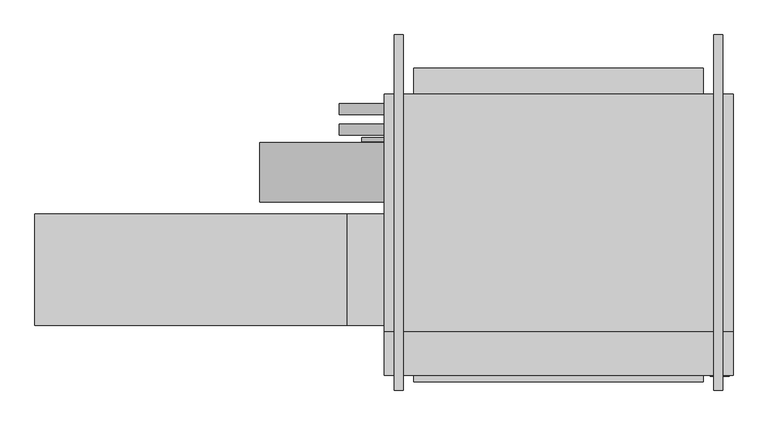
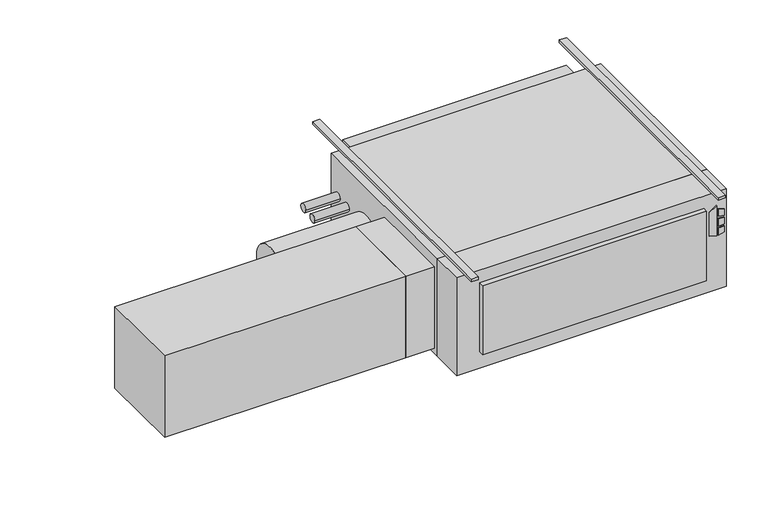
"""IFC4 building model written with IfcOpenShell, lengths in millimetres: proxy geometry."""

from ifc_helpers import new_model, si_unit, point, frame, frame_2d, origin, origin_with_axes, place, context, project, spatial, polyline, circle_curve, trimmed, segment, composite_curve, outline, extrude, source, transform, mapped, element, save


def mechanical_equipment_04a0eb57(model_context):
    return source(origin(), model_context, "Body", "SweptSolid", [
        extrude(outline(polyline([(-193.2519297, 671.5868862), (-203.2, 703.7602728), (-61.0290756, 703.7602728), (-84.0510817, 671.5868862), (-193.2519297, 671.5868862)])), frame((0.0, -797.052, 0.0), z_axis=(0.0, 1.0, 0.0), x_axis=(0.0, 0.0, 1.0)), (0.0, 0.0, 1.0), 3.175),
        extrude(outline(polyline([(-114.2526443, 710.5186058), (-117.4550368, 736.6), (-88.2261958, 736.6), (-80.1617807, 710.5186058), (-114.2526443, 710.5186058)])), frame((0.0, -797.052, 0.0), z_axis=(0.0, 1.0, 0.0), x_axis=(0.0, 0.0, 1.0)), (0.0, 0.0, 1.0), 3.175),
        extrude(outline(polyline([(-166.1161712, 736.6), (-169.7816721, 710.5186058), (-203.2, 710.5186058), (-194.5657628, 736.6), (-166.1161712, 736.6)])), frame((0.0, -797.052, 0.0), z_axis=(0.0, 1.0, 0.0), x_axis=(0.0, 0.0, 1.0)), (0.0, 0.0, 1.0), 3.175),
        extrude(outline(polyline([(-126.8010097, 736.6), (-124.5191834, 710.5186058), (-160.4567319, 710.5186058), (-157.7154669, 736.6), (-126.8010097, 736.6)])), frame((0.0, -797.052, 0.0), z_axis=(0.0, 1.0, 0.0), x_axis=(0.0, 0.0, 1.0)), (0.0, 0.0, 1.0), 3.175),
        extrude(outline(polyline([(749.3, -793.877), (-444.5, -793.877), (-444.5, -644.525), (749.3, -644.525), (749.3, -793.877)])), frame((0.0, 0.0, -457.2), z_axis=(0.0, 0.0, 1.0), x_axis=(1.0, 0.0, 0.0)), (0.0, 0.0, 1.0), 457.2),
        extrude(outline(polyline([(647.7, -816.229), (-342.9, -816.229), (-342.9, -793.877), (647.7, -793.877), (647.7, -816.229)])), frame((0.0, 0.0, -381.0), z_axis=(0.0, 0.0, 1.0), x_axis=(1.0, 0.0, 0.0)), (0.0, 0.0, 1.0), 323.85),
        extrude(outline(polyline([(-1638.3, -622.3), (-1638.3, -241.3), (-571.5, -241.3), (-571.5, -622.3), (-1638.3, -622.3)])), frame((0.0, 0.0, -431.8), z_axis=(0.0, 0.0, 1.0), x_axis=(1.0, 0.0, 0.0)), (0.0, 0.0, 1.0), 381.0),
        extrude(outline(polyline([(-444.5, -241.3), (-444.5, -622.3), (-571.5, -622.3), (-571.5, -241.3), (-444.5, -241.3)])), frame((0.0, 0.0, -431.8), z_axis=(0.0, 0.0, 1.0), x_axis=(1.0, 0.0, 0.0)), (0.0, 0.0, 1.0), 381.0),
        extrude(outline(composite_curve([segment(trimmed(circle_curve(frame_2d((-98.4896516, -228.6360165)), 101.6), [point((-200.0896516, -228.6360165))], [point((3.1103484, -228.6360165))], False, "CARTESIAN"), True, "CONTINUOUS"), segment(trimmed(circle_curve(frame_2d((-98.4896516, -228.6360165)), 101.6), [point((3.1103484, -228.6360165))], [point((-200.0896516, -228.6360165))], False, "CARTESIAN"), True, "CONTINUOUS")], self_intersect=False)), frame((-869.95, 0.0, 0.0), z_axis=(1.0, 0.0, 0.0), x_axis=(0.0, 1.0, 0.0)), (0.0, 0.0, 1.0), 425.45),
        extrude(outline(composite_curve([segment(trimmed(circle_curve(frame_2d((47.625, -177.8)), 19.05), [point((28.575, -177.8))], [point((66.675, -177.8))], False, "CARTESIAN"), True, "CONTINUOUS"), segment(trimmed(circle_curve(frame_2d((47.625, -177.8)), 19.05), [point((66.675, -177.8))], [point((28.575, -177.8))], False, "CARTESIAN"), True, "CONTINUOUS")], self_intersect=False)), frame((-596.9, 0.0, 0.0), z_axis=(1.0, 0.0, 0.0), x_axis=(0.0, 1.0, 0.0)), (0.0, 0.0, 1.0), 152.4),
        extrude(outline(composite_curve([segment(trimmed(circle_curve(frame_2d((117.475, -171.45)), 19.05), [point((98.425, -171.45))], [point((136.525, -171.45))], False, "CARTESIAN"), True, "CONTINUOUS"), segment(trimmed(circle_curve(frame_2d((117.475, -171.45)), 19.05), [point((136.525, -171.45))], [point((98.425, -171.45))], False, "CARTESIAN"), True, "CONTINUOUS")], self_intersect=False)), frame((-596.9, 0.0, 0.0), z_axis=(1.0, 0.0, 0.0), x_axis=(0.0, 1.0, 0.0)), (0.0, 0.0, 1.0), 152.4),
        extrude(outline(composite_curve([segment(trimmed(circle_curve(frame_2d((12.7, -409.575)), 6.35), [point((6.35, -409.575))], [point((19.05, -409.575))], False, "CARTESIAN"), True, "CONTINUOUS"), segment(trimmed(circle_curve(frame_2d((12.7, -409.575)), 6.35), [point((19.05, -409.575))], [point((6.35, -409.575))], False, "CARTESIAN"), True, "CONTINUOUS")], self_intersect=False)), frame((-520.7, 0.0, 0.0), z_axis=(1.0, 0.0, 0.0), x_axis=(0.0, 1.0, 0.0)), (0.0, 0.0, 1.0), 76.2),
        extrude(outline(polyline([(749.3, 168.275), (749.3, -644.525), (-444.5, -644.525), (-444.5, 168.275), (749.3, 168.275)])), frame((0.0, 0.0, -457.2), z_axis=(0.0, 0.0, 1.0), x_axis=(1.0, 0.0, 0.0)), (0.0, 0.0, 1.0), 457.2),
        extrude(outline(polyline([(-342.9, 257.175), (647.7, 257.175), (647.7, 168.275), (-342.9, 168.275), (-342.9, 257.175)])), frame((0.0, 0.0, -381.0), z_axis=(0.0, 0.0, 1.0), x_axis=(1.0, 0.0, 0.0)), (0.0, 0.0, 1.0), 355.6),
        extrude(outline(polyline([(-377.825, 371.475), (-377.825, -844.677), (-409.575, -844.677), (-409.575, 371.475), (-377.825, 371.475)])), origin_with_axes(), (0.0, 0.0, 1.0), 12.7),
        extrude(outline(polyline([(714.375, 371.475), (714.375, -844.677), (682.625, -844.677), (682.625, 371.475), (714.375, 371.475)])), origin_with_axes(), (0.0, 0.0, 1.0), 12.7),
    ])


if __name__ == "__main__":
    model = new_model("IFC4")
    model_context = context("Model", 3, world=origin())
    ifc_project = project(units=[si_unit("LENGTHUNIT", "METRE", prefix="MILLI")], contexts=[model_context])
    site = spatial("IfcSite", under=ifc_project)
    building = spatial("IfcBuilding", under=site)
    placement = place(None, origin())
    mechanical_equipment_shape = mechanical_equipment_04a0eb57(model_context)
    element("IfcBuildingElementProxy", 1, Name="High_Capacity_Horizontal_Cabinet_Fan_Coil_Unit_-_HTY_-_IEC_-_2 Pipe, Elec Heat_WO-Attenuator_LH Side_2022 : Size 16 - 277v/60Hz/1Ph - 8/0 Coil 10.0kW - 8\" AirIn", ObjectType="High_Capacity_Horizontal_Cabinet_Fan_Coil_Unit_-_HTY_-_IEC_-_2 Pipe, Elec Heat_WO-Attenuator_LH Side_2022 : Size 16 - 277v/60Hz/1Ph - 8/0 Coil 10.0kW - 8\" AirIn", at=placement, inside=building, context=model_context, shape_type="MappedRepresentation", body=[
        mapped(mechanical_equipment_shape, transform((0.0, 0.0, 0.0), x_axis=(1.0, 0.0, 0.0), y_axis=(0.0, 1.0, 0.0), z_axis=(0.0, 0.0, 1.0))),
    ])
    save(model, "model.ifc")
